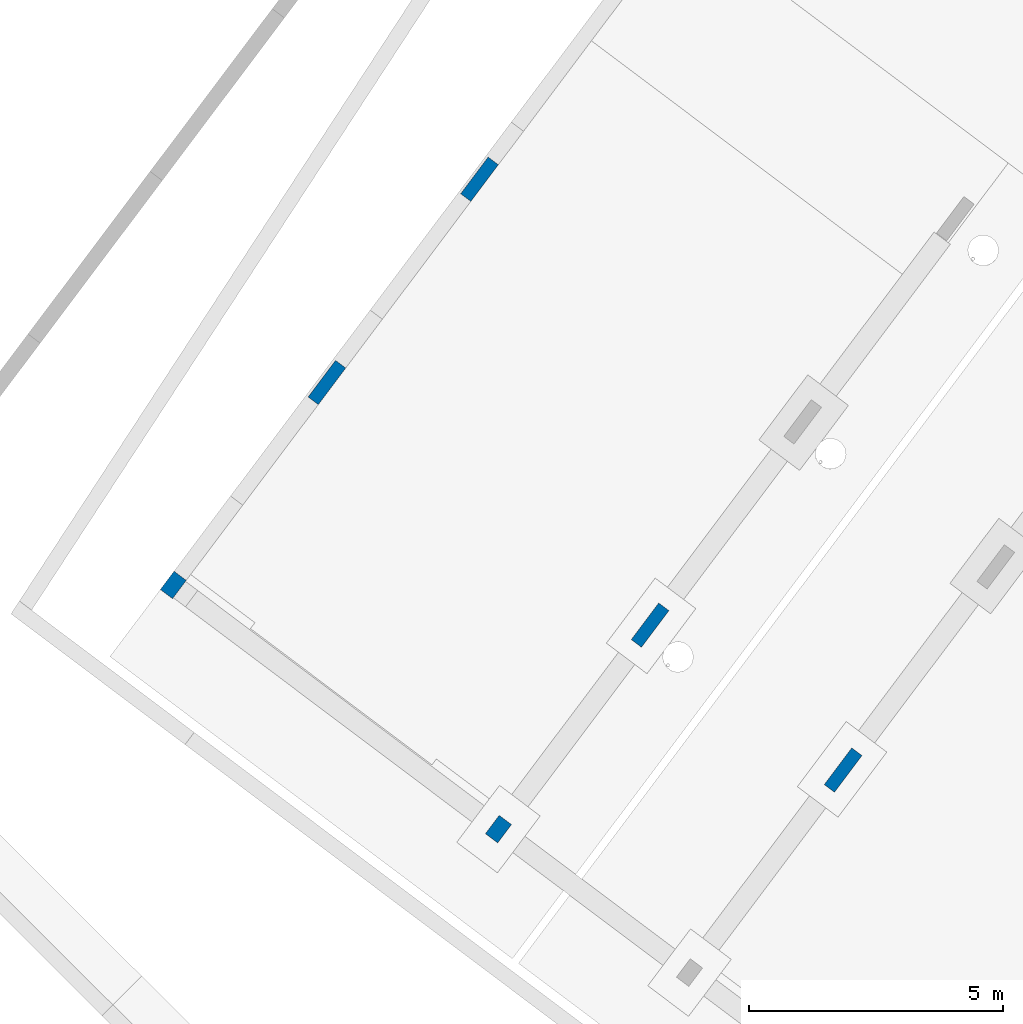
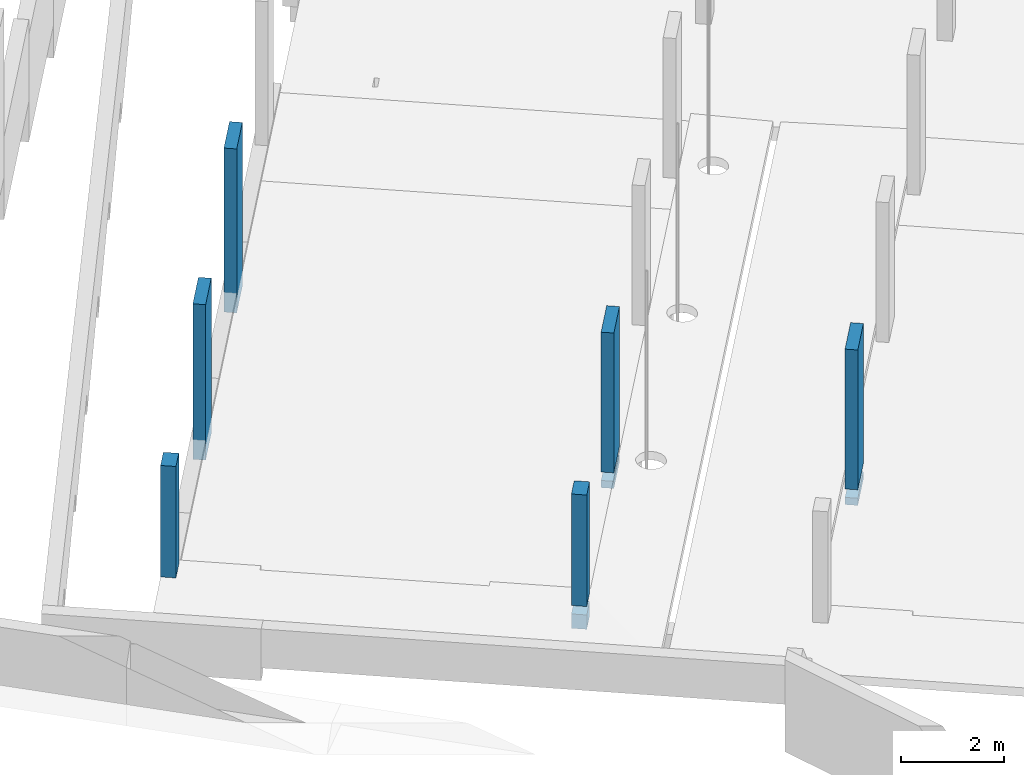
# One storey, part 5 of 24: 6 columns.
"""IFC2X3 building model written with IfcOpenShell, lengths in metres."""

from ifc_helpers import new_model, entity, si_unit, converted_unit, derived_unit, direction, frame, origin, origin_2d_with_axis, place, context, subcontext, project, spatial, rectangle, extrude, clip, halfspace, source, transform, mapped, material, type_object, type_shapes, element, save


model = new_model("IFC2X3")

# Units and contexts
model_context = context("Model", 3, precision=1e-05, world=origin(), true_north=direction((6.123031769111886e-17, 1.0)))
body_context = subcontext(model_context, "Body", "Model", "MODEL_VIEW")
ifc_project = project(units=[si_unit("LENGTHUNIT", "METRE"), si_unit("AREAUNIT", "SQUARE_METRE"), si_unit("VOLUMEUNIT", "CUBIC_METRE"), converted_unit("PLANEANGLEUNIT", "DEGREE", entity("IfcRatioMeasure", 0.017453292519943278), si_unit("PLANEANGLEUNIT", "RADIAN"), dimensions=[0, 0, 0, 0, 0, 0, 0]), si_unit("MASSUNIT", "GRAM", prefix="KILO"), derived_unit("MASSDENSITYUNIT", [(si_unit("MASSUNIT", "GRAM", prefix="KILO"), 1), (si_unit("LENGTHUNIT", "METRE"), -3)]), derived_unit("IONCONCENTRATIONUNIT", [(si_unit("MASSUNIT", "GRAM", prefix="KILO"), 1), (si_unit("LENGTHUNIT", "METRE"), -3)]), derived_unit("MOMENTOFINERTIAUNIT", [(si_unit("LENGTHUNIT", "METRE"), 4)]), si_unit("TIMEUNIT", "SECOND"), si_unit("FREQUENCYUNIT", "HERTZ"), si_unit("THERMODYNAMICTEMPERATUREUNIT", "DEGREE_CELSIUS"), derived_unit("THERMALTRANSMITTANCEUNIT", [(si_unit("MASSUNIT", "GRAM", prefix="KILO"), 1), (si_unit("THERMODYNAMICTEMPERATUREUNIT", "KELVIN"), -1), (si_unit("TIMEUNIT", "SECOND"), -3)]), derived_unit("THERMALCONDUCTANCEUNIT", [(si_unit("MASSUNIT", "GRAM", prefix="KILO"), 1), (si_unit("THERMODYNAMICTEMPERATUREUNIT", "KELVIN"), -1), (si_unit("TIMEUNIT", "SECOND"), -3), (si_unit("LENGTHUNIT", "METRE"), 1)]), derived_unit("VOLUMETRICFLOWRATEUNIT", [(si_unit("LENGTHUNIT", "METRE"), 3), (si_unit("TIMEUNIT", "SECOND"), -1)]), derived_unit("MASSFLOWRATEUNIT", [(si_unit("MASSUNIT", "GRAM", prefix="KILO"), 1), (si_unit("TIMEUNIT", "SECOND"), -1)]), derived_unit("ROTATIONALFREQUENCYUNIT", [(si_unit("TIMEUNIT", "SECOND"), -1)]), si_unit("ELECTRICCURRENTUNIT", "AMPERE"), si_unit("ELECTRICVOLTAGEUNIT", "VOLT"), si_unit("POWERUNIT", "WATT"), si_unit("FORCEUNIT", "NEWTON", prefix="KILO"), si_unit("ILLUMINANCEUNIT", "LUX"), si_unit("LUMINOUSFLUXUNIT", "LUMEN"), si_unit("LUMINOUSINTENSITYUNIT", "CANDELA"), derived_unit("USERDEFINED", [(si_unit("MASSUNIT", "GRAM", prefix="KILO"), -1), (si_unit("LENGTHUNIT", "METRE"), -2), (si_unit("TIMEUNIT", "SECOND"), 3), (si_unit("LUMINOUSFLUXUNIT", "LUMEN"), 1)]), derived_unit("USERDEFINED", [(si_unit("MASSUNIT", "GRAM", prefix="KILO"), 1), (si_unit("TIMEUNIT", "SECOND"), -3), (si_unit("LENGTHUNIT", "METRE"), 3), (si_unit("ELECTRICCURRENTUNIT", "AMPERE"), -2)]), derived_unit("SOUNDPOWERUNIT", [(si_unit("MASSUNIT", "GRAM", prefix="KILO"), 1), (si_unit("TIMEUNIT", "SECOND"), -3), (si_unit("LENGTHUNIT", "METRE"), 2)]), derived_unit("SOUNDPRESSUREUNIT", [(si_unit("MASSUNIT", "GRAM", prefix="KILO"), 1), (si_unit("LENGTHUNIT", "METRE"), -1), (si_unit("TIMEUNIT", "SECOND"), -2)]), derived_unit("LINEARVELOCITYUNIT", [(si_unit("LENGTHUNIT", "METRE"), 1), (si_unit("TIMEUNIT", "SECOND"), -1)]), si_unit("PRESSUREUNIT", "PASCAL"), derived_unit("USERDEFINED", [(si_unit("MASSUNIT", "GRAM", prefix="KILO"), 1), (si_unit("LENGTHUNIT", "METRE"), -2), (si_unit("TIMEUNIT", "SECOND"), -2)]), derived_unit("LINEARFORCEUNIT", [(si_unit("MASSUNIT", "GRAM", prefix="KILO"), 1), (si_unit("TIMEUNIT", "SECOND"), -2)]), derived_unit("PLANARFORCEUNIT", [(si_unit("MASSUNIT", "GRAM", prefix="KILO"), 1), (si_unit("LENGTHUNIT", "METRE"), -1), (si_unit("TIMEUNIT", "SECOND"), -2)]), derived_unit("SPECIFICHEATCAPACITYUNIT", [(si_unit("THERMODYNAMICTEMPERATUREUNIT", "KELVIN"), -1), (si_unit("LENGTHUNIT", "METRE"), 2), (si_unit("TIMEUNIT", "SECOND"), -2)]), derived_unit("HEATINGVALUEUNIT", [(si_unit("LENGTHUNIT", "METRE"), 2), (si_unit("TIMEUNIT", "SECOND"), -2)]), derived_unit("VAPORPERMEABILITYUNIT", [(si_unit("LENGTHUNIT", "METRE"), -1), (si_unit("TIMEUNIT", "SECOND"), 1)]), derived_unit("DYNAMICVISCOSITYUNIT", [(si_unit("MASSUNIT", "GRAM", prefix="KILO"), 1), (si_unit("TIMEUNIT", "SECOND"), -1), (si_unit("LENGTHUNIT", "METRE"), -1)]), derived_unit("THERMALEXPANSIONCOEFFICIENTUNIT", [(si_unit("THERMODYNAMICTEMPERATUREUNIT", "KELVIN"), -1)]), derived_unit("MODULUSOFELASTICITYUNIT", [(si_unit("MASSUNIT", "GRAM", prefix="KILO"), 1), (si_unit("LENGTHUNIT", "METRE"), -1), (si_unit("TIMEUNIT", "SECOND"), -2)]), derived_unit("ISOTHERMALMOISTURECAPACITYUNIT", [(si_unit("LENGTHUNIT", "METRE"), 3), (si_unit("MASSUNIT", "GRAM", prefix="KILO"), -1)]), derived_unit("MOISTUREDIFFUSIVITYUNIT", [(si_unit("TIMEUNIT", "SECOND"), -1), (si_unit("LENGTHUNIT", "METRE"), 2)])], contexts=[model_context])

# Site, building, storey
site_placement = place(None, origin())
site = spatial("IfcSite", under=ifc_project, at=site_placement, Name="Default", CompositionType="ELEMENT")
building_placement = place(site_placement, frame((0.0, 0.0, 235.0), z_axis=(0.0, 0.0, 1.0), x_axis=(-0.7996477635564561, 0.6004693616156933, 0.0)))
building = spatial("IfcBuilding", under=site, at=building_placement, CompositionType="ELEMENT")
storey_placement = place(building_placement, origin())
storey = spatial("IfcBuildingStorey", under=building, at=storey_placement, Name="P0- Escola", CompositionType="ELEMENT", Elevation=0.0)

# Columns
ifc_material = material(Name="_Formigó- T1- STR")
column_type_1 = type_object("IfcColumnType", Name="STR- P- Formigó- Rectangular- T1:30x45cm", PredefinedType="COLUMN", material=ifc_material)
shared_shape_1 = source(origin(), body_context, "Body", "SweptSolid", [
    clip(extrude(rectangle(XDim=0.450000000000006, YDim=0.3000000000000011, at=origin_2d_with_axis()), frame((66.59514768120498, -19.915191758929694, -0.57), z_axis=(0.0, 0.0, 1.0), x_axis=(0.0, -1.0, 0.0)), (0.0, 0.0, 1.0), 0.35000000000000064), halfspace(frame((70.19514768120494, -19.090191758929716, -0.24500000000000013), z_axis=(0.0, 0.023802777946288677, 0.9997166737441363), x_axis=(0.6059345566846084, -0.7952891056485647, 0.018935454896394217)), False)),
    clip(extrude(rectangle(XDim=0.450000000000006, YDim=0.3000000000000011, at=origin_2d_with_axis()), frame((66.59514768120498, -19.915191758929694, -0.030714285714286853), z_axis=(0.0, 0.0, 1.0), x_axis=(0.0, -1.0, 0.0)), (0.0, 0.0, 1.0), 2.63071428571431), halfspace(frame((70.19514768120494, -19.090191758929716, -0.045000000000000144), z_axis=(0.0, -0.023802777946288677, -0.9997166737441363), x_axis=(0.6059345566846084, -0.7952891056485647, 0.018935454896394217)), False)),
])
type_shapes(column_type_1, [shared_shape_1])
column_1_placement = place(storey_placement, origin())
element("IfcColumn", 1, at=column_1_placement, inside=storey, type_object=column_type_1, material=ifc_material, Name="STR- P- Formigó- Rectangular- T1:30x45cm", ObjectType="STR- P- Formigó- Rectangular- T1:30x45cm", context=body_context, shape_type="MappedRepresentation", body=[
    mapped(shared_shape_1, transform((0.0, 0.0, 0.0), scale=1.0)),
])
column_type_2 = type_object("IfcColumnType", Name="STR- P- Formigó- Rectangular- T1:30x45cm", PredefinedType="COLUMN", material=ifc_material)
shared_shape_2 = source(origin(), body_context, "Body", "SweptSolid", [
    clip(extrude(rectangle(XDim=0.450000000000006, YDim=0.3000000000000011, at=origin_2d_with_axis()), frame((74.59514768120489, -19.915191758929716, -0.03071428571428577), z_axis=(0.0, 0.0, 1.0), x_axis=(0.0, -1.0, 0.0)), (0.0, 0.0, 1.0), 2.6307142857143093), halfspace(frame((70.19514768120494, -19.090191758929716, -0.045000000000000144), z_axis=(0.0, -0.023802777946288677, -0.9997166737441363), x_axis=(0.6059345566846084, -0.7952891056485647, 0.018935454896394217)), False)),
])
type_shapes(column_type_2, [shared_shape_2])
column_2_placement = place(storey_placement, origin())
element("IfcColumn", 2, at=column_2_placement, inside=storey, type_object=column_type_2, material=ifc_material, Name="STR- P- Formigó- Rectangular- T1:30x45cm", ObjectType="STR- P- Formigó- Rectangular- T1:30x45cm", context=body_context, shape_type="MappedRepresentation", body=[
    mapped(shared_shape_2, transform((0.0, 0.0, 0.0), scale=1.0)),
])
column_type_3 = type_object("IfcColumnType", Name="STR- P- Formigó- Rectangular- T1:25x90cm", PredefinedType="COLUMN", material=ifc_material)
shared_shape_3 = source(origin(), body_context, "Body", "SweptSolid", [
    extrude(rectangle(XDim=0.899999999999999, YDim=0.25000000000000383, at=origin_2d_with_axis()), frame((61.87014768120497, -24.915191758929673, -0.57), z_axis=(0.0, 0.0, 1.0), x_axis=(0.0, -1.0, 0.0)), (0.0, 0.0, 1.0), 0.16999999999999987),
    extrude(rectangle(XDim=0.899999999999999, YDim=0.25000000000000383, at=origin_2d_with_axis()), frame((61.87014768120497, -24.915191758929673, -0.2), z_axis=(0.0, 0.0, 1.0), x_axis=(0.0, -1.0, 0.0)), (0.0, 0.0, 1.0), 3.3000000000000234),
])
type_shapes(column_type_3, [shared_shape_3])
column_3_placement = place(storey_placement, origin())
element("IfcColumn", 3, at=column_3_placement, inside=storey, type_object=column_type_3, material=ifc_material, Name="STR- P- Formigó- Rectangular- T1:25x90cm", ObjectType="STR- P- Formigó- Rectangular- T1:25x90cm", context=body_context, shape_type="MappedRepresentation", body=[
    mapped(shared_shape_3, transform((0.0, 0.0, 0.0), scale=1.0)),
])
column_type_4 = type_object("IfcColumnType", Name="STR- P- Formigó- Rectangular- T1:25x90cm", PredefinedType="COLUMN", material=ifc_material)
shared_shape_4 = source(origin(), body_context, "Body", "SweptSolid", [
    extrude(rectangle(XDim=0.899999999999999, YDim=0.25000000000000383, at=origin_2d_with_axis()), frame((66.62014768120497, -24.91519175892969, -0.57), z_axis=(0.0, 0.0, 1.0), x_axis=(0.0, -1.0, 0.0)), (0.0, 0.0, 1.0), 0.16999999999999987),
    extrude(rectangle(XDim=0.899999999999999, YDim=0.25000000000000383, at=origin_2d_with_axis()), frame((66.62014768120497, -24.91519175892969, -0.2), z_axis=(0.0, 0.0, 1.0), x_axis=(0.0, -1.0, 0.0)), (0.0, 0.0, 1.0), 3.3000000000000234),
])
type_shapes(column_type_4, [shared_shape_4])
column_4_placement = place(storey_placement, origin())
element("IfcColumn", 4, at=column_4_placement, inside=storey, type_object=column_type_4, material=ifc_material, Name="STR- P- Formigó- Rectangular- T1:25x90cm", ObjectType="STR- P- Formigó- Rectangular- T1:25x90cm", context=body_context, shape_type="MappedRepresentation", body=[
    mapped(shared_shape_4, transform((0.0, 0.0, 0.0), scale=1.0)),
])
column_type_5 = type_object("IfcColumnType", Name="STR- P- Formigó- Rectangular- T1:25x90cm", PredefinedType="COLUMN", material=ifc_material)
shared_shape_5 = source(origin(), body_context, "Body", "SweptSolid", [
    extrude(rectangle(XDim=0.899999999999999, YDim=0.25000000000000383, at=origin_2d_with_axis()), frame((74.57014768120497, -24.91519175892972, -0.57), z_axis=(0.0, 0.0, 1.0), x_axis=(0.0, -1.0, 0.0)), (0.0, 0.0, 1.0), 3.6700000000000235),
])
type_shapes(column_type_5, [shared_shape_5])
column_5_placement = place(storey_placement, origin())
element("IfcColumn", 5, at=column_5_placement, inside=storey, type_object=column_type_5, material=ifc_material, Name="STR- P- Formigó- Rectangular- T1:25x90cm", ObjectType="STR- P- Formigó- Rectangular- T1:25x90cm", context=body_context, shape_type="MappedRepresentation", body=[
    mapped(shared_shape_5, transform((0.0, 0.0, 0.0), scale=1.0)),
])
column_type_6 = type_object("IfcColumnType", Name="STR- P- Formigó- Rectangular- T1:25x90cm", PredefinedType="COLUMN", material=ifc_material)
shared_shape_6 = source(origin(), body_context, "Body", "SweptSolid", [
    extrude(rectangle(XDim=0.899999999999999, YDim=0.25000000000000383, at=origin_2d_with_axis()), frame((74.57014768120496, -29.915191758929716, -0.57), z_axis=(0.0, 0.0, 1.0), x_axis=(0.0, -1.0, 0.0)), (0.0, 0.0, 1.0), 3.870000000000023),
])
type_shapes(column_type_6, [shared_shape_6])
column_6_placement = place(storey_placement, origin())
element("IfcColumn", 6, at=column_6_placement, inside=storey, type_object=column_type_6, material=ifc_material, Name="STR- P- Formigó- Rectangular- T1:25x90cm", ObjectType="STR- P- Formigó- Rectangular- T1:25x90cm", context=body_context, shape_type="MappedRepresentation", body=[
    mapped(shared_shape_6, transform((0.0, 0.0, 0.0), scale=1.0)),
])

save(model, "model.ifc")
